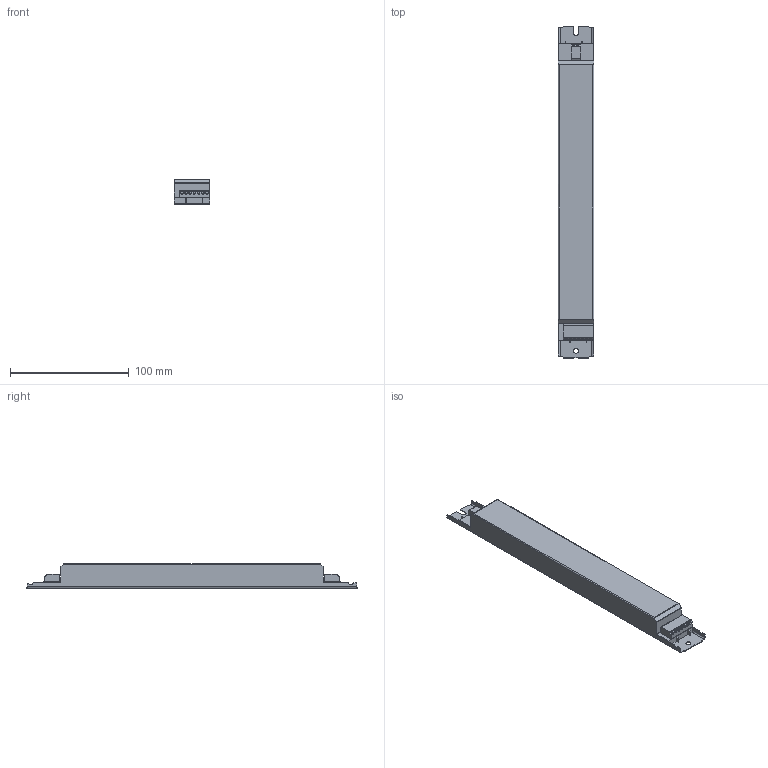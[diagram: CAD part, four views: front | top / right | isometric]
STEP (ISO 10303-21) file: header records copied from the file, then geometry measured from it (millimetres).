
FILE_DESCRIPTION((''),'2;1');
FILE_NAME('15008834Z_280X30_HYPE','2014-12-03T',('juergen.hrach'),(''),'PRO/ENGINEER BY PARAMETRIC TECHNOLOGY CORPORATION, 2014000','PRO/ENGINEER BY PARAMETRIC TECHNOLOGY CORPORATION, 2014000','');
FILE_SCHEMA(('AUTOMOTIVE_DESIGN { 1 0 10303 214 1 1 1 1 }'));
Length unit declared in the file: millimetre
Products named in the file (1): 15008834Z_280X30_HYPE
Bounding box: 30 x 280 x 21 mm (x, y, z)
Volume: 146585 mm3; surface area: 28226.6 mm2
Topology: 1 solids, 1 shells, 162 faces, 468 edges, 310 vertices
Faces by surface type: plane 86, cylinder 76
Entity records: 7356 total; most frequent: CARTESIAN_POINT 1226, ORIENTED_EDGE 936, DIRECTION 864, PRESENTATION_STYLE_ASSIGNMENT 471, STYLED_ITEM 469, CURVE_STYLE 468, EDGE_CURVE 468, VERTEX_POINT 310
